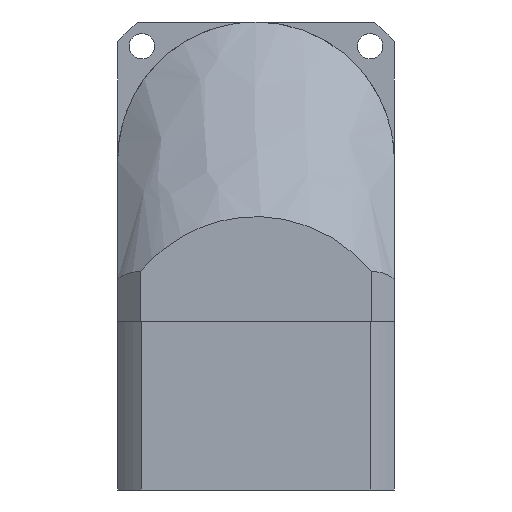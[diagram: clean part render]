
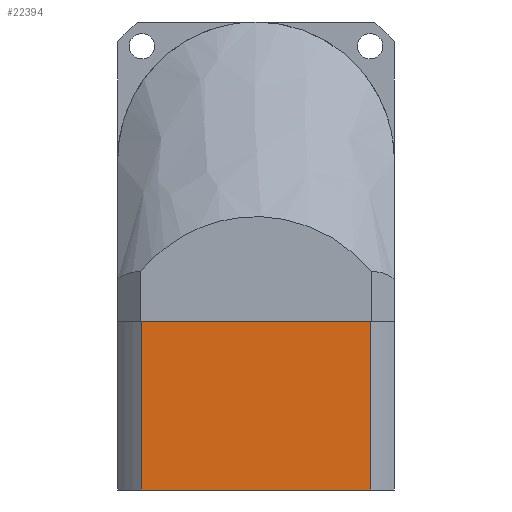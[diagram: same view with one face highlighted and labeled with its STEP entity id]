
A CAD part, front view. The second image highlights one B-rep face of the part: STEP entity #22394.
In plain terms, the highlighted planar face has unit normal (0, -1, 0).
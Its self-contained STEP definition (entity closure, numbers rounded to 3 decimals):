
#618 = VECTOR ( 'NONE', #38070, 1000. ) ;
#1720 = CARTESIAN_POINT ( 'NONE',  ( -24.92, -30., 0. ) ) ;
#3204 = ORIENTED_EDGE ( 'NONE', *, *, #23814, .T. ) ;
#8332 = CARTESIAN_POINT ( 'NONE',  ( -30., -30., -36.5 ) ) ;
#9059 = ORIENTED_EDGE ( 'NONE', *, *, #38448, .T. ) ;
#10313 = VECTOR ( 'NONE', #19696, 1000. ) ;
#11473 = FACE_OUTER_BOUND ( 'NONE', #28620, .T. ) ;
#18341 = ORIENTED_EDGE ( 'NONE', *, *, #35939, .T. ) ;
#19289 = CARTESIAN_POINT ( 'NONE',  ( -30., -30., 0. ) ) ;
#19696 = DIRECTION ( 'NONE',  ( 0., 0., 1. ) ) ;
#21392 = LINE ( 'NONE', #34520, #10313 ) ;
#21866 = VERTEX_POINT ( 'NONE', #37965 ) ;
#22394 = ADVANCED_FACE ( 'NONE', ( #11473 ), #41743, .T. ) ;
#22452 = EDGE_CURVE ( 'NONE', #32616, #21866, #21392, .T. ) ;
#22461 = AXIS2_PLACEMENT_3D ( 'NONE', #8332, #45444, #23285 ) ;
#22665 = CARTESIAN_POINT ( 'NONE',  ( 0., -30., -36.5 ) ) ;
#23285 = DIRECTION ( 'NONE',  ( 0., 0., -1. ) ) ;
#23814 = EDGE_CURVE ( 'NONE', #21866, #23910, #33526, .T. ) ;
#23910 = VERTEX_POINT ( 'NONE', #1720 ) ;
#27620 = CARTESIAN_POINT ( 'NONE',  ( 24.92, -30., -36.5 ) ) ;
#28236 = DIRECTION ( 'NONE',  ( 0., 0., -1. ) ) ;
#28620 = EDGE_LOOP ( 'NONE', ( #18341, #9059, #45397, #3204 ) ) ;
#32616 = VERTEX_POINT ( 'NONE', #27620 ) ;
#33526 = LINE ( 'NONE', #19289, #42152 ) ;
#33821 = LINE ( 'NONE', #39576, #36160 ) ;
#34520 = CARTESIAN_POINT ( 'NONE',  ( 24.92, -30., -36.5 ) ) ;
#35939 = EDGE_CURVE ( 'NONE', #23910, #35992, #33821, .T. ) ;
#35992 = VERTEX_POINT ( 'NONE', #36376 ) ;
#36160 = VECTOR ( 'NONE', #28236, 1000. ) ;
#36376 = CARTESIAN_POINT ( 'NONE',  ( -24.92, -30., -36.5 ) ) ;
#37965 = CARTESIAN_POINT ( 'NONE',  ( 24.92, -30., 0. ) ) ;
#38070 = DIRECTION ( 'NONE',  ( 1., 0., 0. ) ) ;
#38448 = EDGE_CURVE ( 'NONE', #35992, #32616, #47632, .T. ) ;
#39576 = CARTESIAN_POINT ( 'NONE',  ( -24.92, -30., -36.5 ) ) ;
#41743 = PLANE ( 'NONE',  #22461 ) ;
#42152 = VECTOR ( 'NONE', #45224, 1000. ) ;
#45224 = DIRECTION ( 'NONE',  ( -1., 0., 0. ) ) ;
#45397 = ORIENTED_EDGE ( 'NONE', *, *, #22452, .T. ) ;
#45444 = DIRECTION ( 'NONE',  ( 0., -1., 0. ) ) ;
#47632 = LINE ( 'NONE', #22665, #618 ) ;
